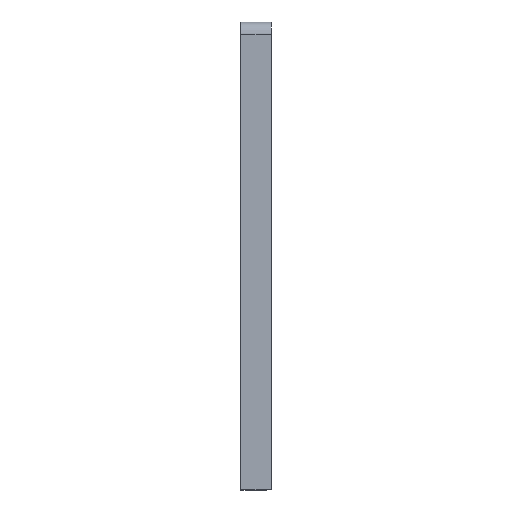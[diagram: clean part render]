
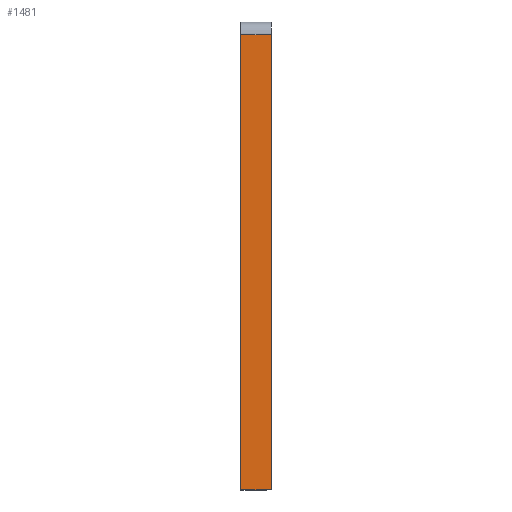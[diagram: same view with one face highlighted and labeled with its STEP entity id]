
A CAD part, top view. The second image highlights one B-rep face of the part: STEP entity #1481.
In plain terms, the highlighted planar face has unit normal (0, 0, 1).
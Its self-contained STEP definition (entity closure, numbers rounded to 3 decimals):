
#61 = CARTESIAN_POINT ( 'NONE',  ( 11.8, 165.05, 7.1 ) ) ;
#76 = AXIS2_PLACEMENT_3D ( 'NONE', #200, #1029, #1368 ) ;
#84 = VERTEX_POINT ( 'NONE', #847 ) ;
#164 = VERTEX_POINT ( 'NONE', #429 ) ;
#173 = CARTESIAN_POINT ( 'NONE',  ( 11.8, -13., 7.1 ) ) ;
#200 = CARTESIAN_POINT ( 'NONE',  ( 11.8, -13., 7.1 ) ) ;
#327 = CARTESIAN_POINT ( 'NONE',  ( 11.8, -13., 7.1 ) ) ;
#425 = DIRECTION ( 'NONE',  ( -1., 0., 0. ) ) ;
#429 = CARTESIAN_POINT ( 'NONE',  ( 11.8, -13., 7.1 ) ) ;
#479 = CARTESIAN_POINT ( 'NONE',  ( 0., 165.05, 7.1 ) ) ;
#486 = EDGE_CURVE ( 'NONE', #84, #1154, #747, .T. ) ;
#526 = DIRECTION ( 'NONE',  ( 0., 1., 0. ) ) ;
#617 = EDGE_CURVE ( 'NONE', #164, #84, #665, .T. ) ;
#665 = LINE ( 'NONE', #327, #1428 ) ;
#747 = LINE ( 'NONE', #953, #1307 ) ;
#811 = EDGE_LOOP ( 'NONE', ( #1466, #1394, #1425, #903 ) ) ;
#847 = CARTESIAN_POINT ( 'NONE',  ( 0., -13., 7.1 ) ) ;
#868 = VECTOR ( 'NONE', #998, 1000. ) ;
#892 = VECTOR ( 'NONE', #425, 1000. ) ;
#902 = PLANE ( 'NONE',  #76 ) ;
#903 = ORIENTED_EDGE ( 'NONE', *, *, #963, .T. ) ;
#943 = EDGE_CURVE ( 'NONE', #164, #1323, #1334, .T. ) ;
#953 = CARTESIAN_POINT ( 'NONE',  ( 0., -13., 7.1 ) ) ;
#963 = EDGE_CURVE ( 'NONE', #1323, #1154, #1459, .T. ) ;
#998 = DIRECTION ( 'NONE',  ( 0., 1., 0. ) ) ;
#1012 = FACE_OUTER_BOUND ( 'NONE', #811, .T. ) ;
#1029 = DIRECTION ( 'NONE',  ( 0., 0., -1. ) ) ;
#1124 = DIRECTION ( 'NONE',  ( -1., 0., 0. ) ) ;
#1154 = VERTEX_POINT ( 'NONE', #479 ) ;
#1307 = VECTOR ( 'NONE', #526, 1000. ) ;
#1323 = VERTEX_POINT ( 'NONE', #1331 ) ;
#1331 = CARTESIAN_POINT ( 'NONE',  ( 11.8, 165.05, 7.1 ) ) ;
#1334 = LINE ( 'NONE', #173, #868 ) ;
#1368 = DIRECTION ( 'NONE',  ( 1., 0., 0. ) ) ;
#1394 = ORIENTED_EDGE ( 'NONE', *, *, #617, .F. ) ;
#1425 = ORIENTED_EDGE ( 'NONE', *, *, #943, .T. ) ;
#1428 = VECTOR ( 'NONE', #1124, 1000. ) ;
#1459 = LINE ( 'NONE', #61, #892 ) ;
#1466 = ORIENTED_EDGE ( 'NONE', *, *, #486, .F. ) ;
#1481 = ADVANCED_FACE ( 'NONE', ( #1012 ), #902, .F. ) ;
